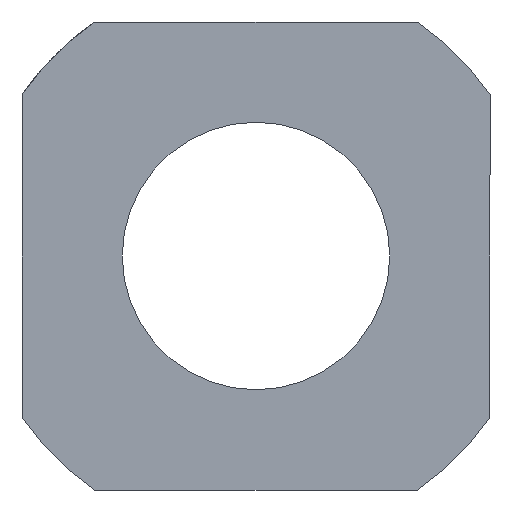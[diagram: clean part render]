
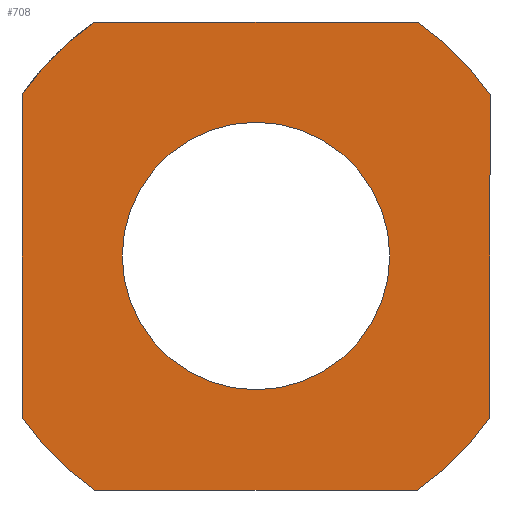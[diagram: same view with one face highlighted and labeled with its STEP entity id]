
A CAD part, left-side view. The second image highlights one B-rep face of the part: STEP entity #708.
In plain terms, the highlighted planar face has unit normal (-1, 0, 0).
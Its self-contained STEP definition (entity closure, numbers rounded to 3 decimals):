
#403=CARTESIAN_POINT('',(0.0,-4.0,0.0));
#404=VERTEX_POINT('',#403);
#405=CARTESIAN_POINT('',(0.0,0.0,0.0));
#406=DIRECTION('',(1.0,0.0,0.0));
#407=DIRECTION('',(0.0,-1.0,0.0));
#408=AXIS2_PLACEMENT_3D('',#405,#406,#407);
#409=CIRCLE('',#408,4.0);
#410=EDGE_CURVE('',#404,#404,#409,.T.);
#430=CARTESIAN_POINT('',(0.0,4.822,7.));
#431=VERTEX_POINT('',#430);
#438=CARTESIAN_POINT('',(0.0,-4.822,7.));
#439=VERTEX_POINT('',#438);
#440=CARTESIAN_POINT('',(0.0,-4.822,7.));
#441=DIRECTION('',(0.0,1.0,0.0));
#442=VECTOR('',#441,9.644);
#443=LINE('',#440,#442);
#444=EDGE_CURVE('',#439,#431,#443,.T.);
#470=CARTESIAN_POINT('',(0.0,-4.822,-7.));
#471=VERTEX_POINT('',#470);
#478=CARTESIAN_POINT('',(0.0,4.822,-7.));
#479=VERTEX_POINT('',#478);
#480=CARTESIAN_POINT('',(0.0,4.822,-7.));
#481=DIRECTION('',(0.0,-1.0,0.0));
#482=VECTOR('',#481,9.644);
#483=LINE('',#480,#482);
#484=EDGE_CURVE('',#479,#471,#483,.T.);
#510=CARTESIAN_POINT('',(0.0,-7.,4.822));
#511=VERTEX_POINT('',#510);
#518=CARTESIAN_POINT('',(0.0,-7.,-4.822));
#519=VERTEX_POINT('',#518);
#520=CARTESIAN_POINT('',(0.0,-7.,-4.822));
#521=DIRECTION('',(0.0,0.0,1.0));
#522=VECTOR('',#521,9.644);
#523=LINE('',#520,#522);
#524=EDGE_CURVE('',#519,#511,#523,.T.);
#550=CARTESIAN_POINT('',(0.0,7.,-4.822));
#551=VERTEX_POINT('',#550);
#558=CARTESIAN_POINT('',(0.0,7.,4.822));
#559=VERTEX_POINT('',#558);
#560=CARTESIAN_POINT('',(0.0,7.,4.822));
#561=DIRECTION('',(0.0,0.0,-1.0));
#562=VECTOR('',#561,9.644);
#563=LINE('',#560,#562);
#564=EDGE_CURVE('',#559,#551,#563,.T.);
#581=CARTESIAN_POINT('',(0.0,0.0,0.0));
#582=DIRECTION('',(1.0,0.0,0.0));
#583=DIRECTION('',(0.0,1.0,0.0));
#584=AXIS2_PLACEMENT_3D('',#581,#582,#583);
#585=CIRCLE('',#584,8.5);
#586=EDGE_CURVE('',#479,#551,#585,.T.);
#613=CARTESIAN_POINT('',(0.0,0.0,0.0));
#614=DIRECTION('',(1.0,0.0,0.0));
#615=DIRECTION('',(0.0,1.0,0.0));
#616=AXIS2_PLACEMENT_3D('',#613,#614,#615);
#617=CIRCLE('',#616,8.5);
#618=EDGE_CURVE('',#519,#471,#617,.T.);
#637=CARTESIAN_POINT('',(0.0,0.0,0.0));
#638=DIRECTION('',(1.0,0.0,0.0));
#639=DIRECTION('',(0.0,1.0,0.0));
#640=AXIS2_PLACEMENT_3D('',#637,#638,#639);
#641=CIRCLE('',#640,8.5);
#642=EDGE_CURVE('',#559,#431,#641,.T.);
#684=CARTESIAN_POINT('',(0.0,4.25,0.0));
#685=DIRECTION('',(-1.0,0.0,0.0));
#686=DIRECTION('',(0.0,0.0,1.0));
#687=AXIS2_PLACEMENT_3D('',#684,#685,#686);
#688=PLANE('',#687);
#689=ORIENTED_EDGE('',*,*,#444,.T.);
#690=ORIENTED_EDGE('',*,*,#642,.F.);
#691=ORIENTED_EDGE('',*,*,#564,.T.);
#692=ORIENTED_EDGE('',*,*,#586,.F.);
#693=ORIENTED_EDGE('',*,*,#484,.T.);
#694=ORIENTED_EDGE('',*,*,#618,.F.);
#695=ORIENTED_EDGE('',*,*,#524,.T.);
#696=CARTESIAN_POINT('',(0.0,0.0,0.0));
#697=DIRECTION('',(1.0,0.0,0.0));
#698=DIRECTION('',(0.0,1.0,0.0));
#699=AXIS2_PLACEMENT_3D('',#696,#697,#698);
#700=CIRCLE('',#699,8.5);
#701=EDGE_CURVE('',#439,#511,#700,.T.);
#702=ORIENTED_EDGE('',*,*,#701,.F.);
#703=EDGE_LOOP('',(#689,#690,#691,#692,#693,#694,#695,#702));
#704=FACE_OUTER_BOUND('',#703,.T.);
#705=ORIENTED_EDGE('',*,*,#410,.T.);
#706=EDGE_LOOP('',(#705));
#707=FACE_BOUND('',#706,.T.);
#708=ADVANCED_FACE('',(#704,#707),#688,.T.);
